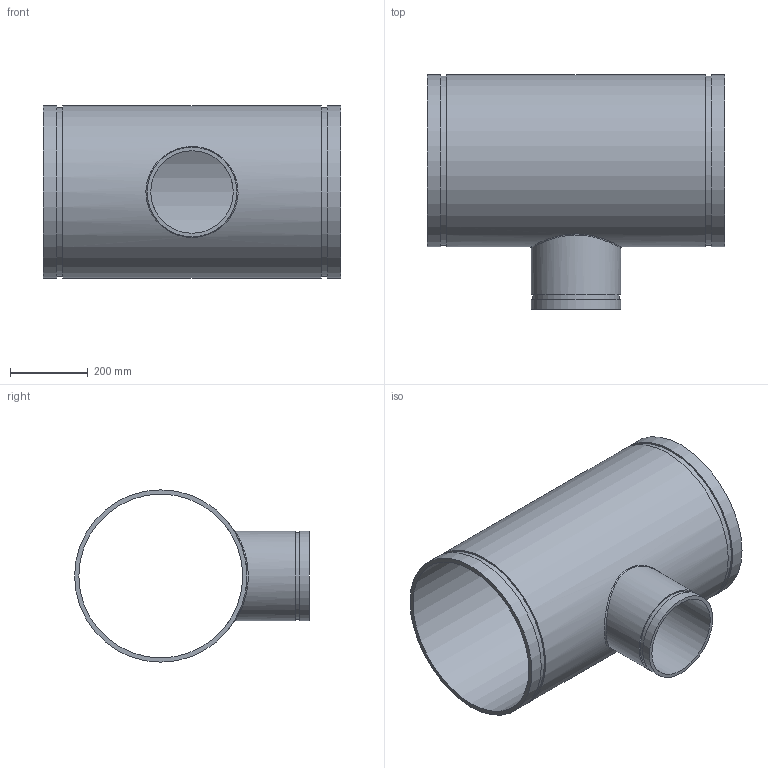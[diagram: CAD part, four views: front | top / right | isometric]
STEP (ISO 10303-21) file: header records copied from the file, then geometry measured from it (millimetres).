
FILE_DESCRIPTION(/* description */ ('VIC REDUCING TEE No 25-C','CAx-IF Rec.Pracs.---Representation and Presentation of Product Manufacturing Information (PMI)---4.0---2014-10-13'),/* implementation_level */ '2;1');
FILE_NAME(/* name */ 'C:\Users\Vjadhav\AppData\Roaming\Autodesk\ApplicationPlugins\Back Up\Victaulic_AWWA_Tee Reducing_No 25-C (DRG)\Victaulic_AWWA_Tee Reducing_No 25-C (DRG)_16.0x08.0 (400x200).stp',/* time_stamp */ '2020-08-18T18:18:15+06:00',/* author */ ('CORINNE GRAY'),/* organization */ ('Victaulic'),/* preprocessor_version */ 'ST-DEVELOPER v17.2',/* originating_system */ 'Autodesk Inventor 2019',/* authorisation */ '');
FILE_SCHEMA (('AP242_MANAGED_MODEL_BASED_3D_ENGINEERING_MIM_LF { 1 0 10303 442 1 1 4 }'));
Length unit declared in the file: inch
Products named in the file (1): 25C-16.0x08.0
Bounding box: 762 x 601.98 x 441.96 mm (x, y, z)
Volume: 11763600.2 mm3; surface area: 2296811.4 mm2
Topology: 1 solids, 1 shells, 20 faces, 44 edges, 33 vertices
Faces by surface type: cylinder 10, plane 9, bspline 1
Full cylindrical faces by diameter (mm): 211.582 x1, 223.037 x1, 229.87 x2, 420.116 x1, 433.4 x2, 441.96 x3
Entity records: 1003 total; most frequent: CARTESIAN_POINT 379, DIRECTION 135, ORIENTED_EDGE 90, AXIS2_PLACEMENT_3D 62, EDGE_CURVE 45, VERTEX_POINT 34, EDGE_LOOP 31, CIRCLE 29
